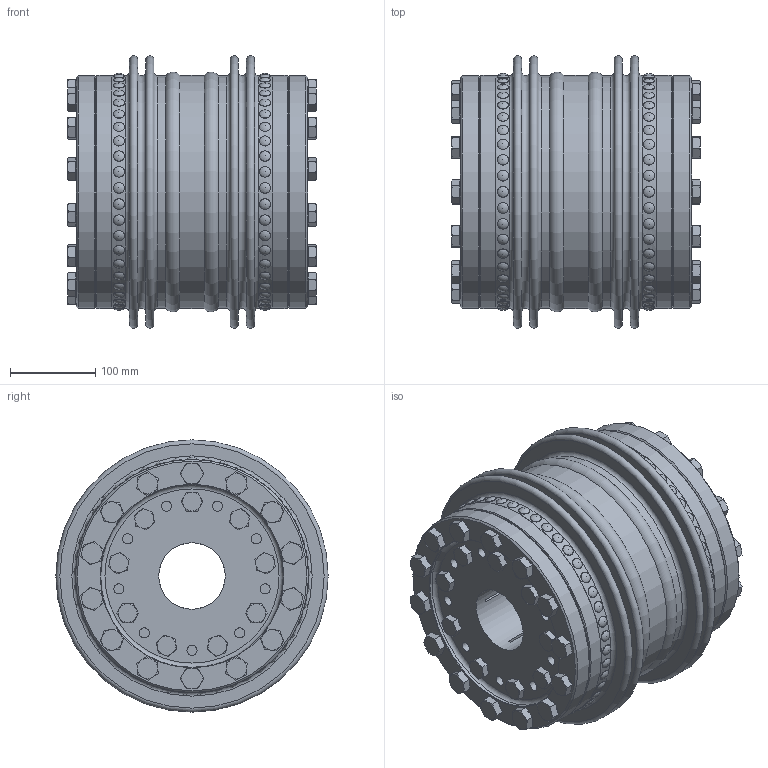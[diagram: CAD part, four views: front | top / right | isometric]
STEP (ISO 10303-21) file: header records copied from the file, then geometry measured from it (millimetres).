
FILE_DESCRIPTION(/* description */ ('Unknown'),/* implementation_level */ '2;1');
FILE_NAME(/* name */ 'KXL 12 B-B',/* time_stamp */ '2020-07-03T11:37:40+02:00',/* author */ ('Unknown'),/* organization */ ('Unknown'),/* preprocessor_version */ 'ST-DEVELOPER v16.7',/* originating_system */ 'DEX',/* authorisation */ $);
FILE_SCHEMA (('AUTOMOTIVE_DESIGN {1 0 10303 214 3 1 1}'));
Length unit declared in the file: millimetre
Products named in the file (1): KXL 12 B-B2
Bounding box: 291 x 319 x 319 mm (x, y, z)
Volume: 7201191.8 mm3; surface area: 1347839 mm2
Topology: 1 solids, 47 shells, 1722 faces, 3825 edges, 2486 vertices
Faces by surface type: plane 710, cylinder 388, cone 320, torus 304
Full cylindrical faces by diameter (mm): 6.4 x180, 11.835 x18, 12 x18, 14 x18, 15 x18, 16 x28, 17 x28, 20.5 x18, 22.5 x28, 78 x2, 202 x2, 205 x2, 208 x2, 214 x4, 256.5 x2, 268.208 x2, 268.906 x1, 272 x2, 272.208 x2, 272.906 x1, 273 x4
Entity records: 42638 total; most frequent: CARTESIAN_POINT 10043, DIRECTION 6610, ORIENTED_EDGE 5324, FACE_BOUND 2988, AXIS2_PLACEMENT_3D 2973, EDGE_LOOP 2880, EDGE_CURVE 2662, VERTEX_POINT 2154
